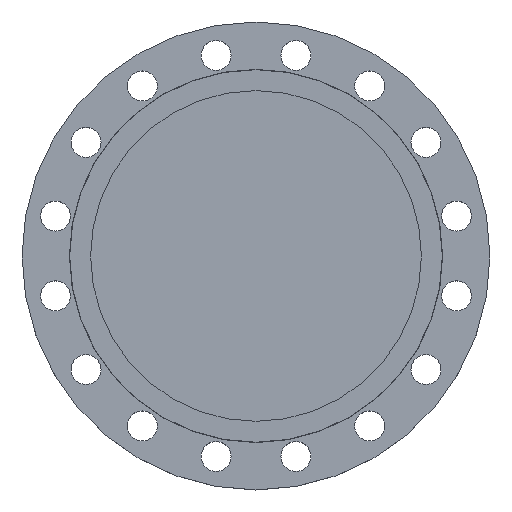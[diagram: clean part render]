
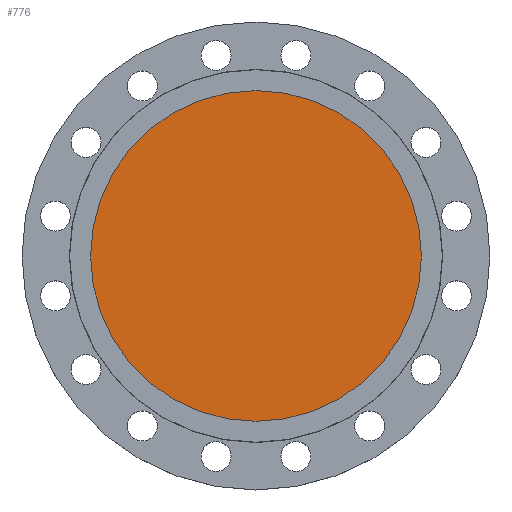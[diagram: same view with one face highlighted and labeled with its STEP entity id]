
A CAD part, top view. The second image highlights one B-rep face of the part: STEP entity #776.
In plain terms, the highlighted planar face has unit normal (0, 0, 1).
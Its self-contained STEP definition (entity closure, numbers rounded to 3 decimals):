
#153 = DIRECTION ( 'NONE',  ( -1., 0., 0. ) ) ;
#155 = DIRECTION ( 'NONE',  ( 0., 0., -1. ) ) ;
#162 = CARTESIAN_POINT ( 'NONE',  ( 0., 0., -4.5 ) ) ;
#166 = AXIS2_PLACEMENT_3D ( 'NONE', #162, #155, #153 ) ;
#452 = AXIS2_PLACEMENT_3D ( 'NONE', #1578, #1577, #1571 ) ;
#460 = EDGE_CURVE ( 'NONE', #789, #830, #977, .T. ) ;
#608 = ORIENTED_EDGE ( 'NONE', *, *, #460, .F. ) ;
#776 = ADVANCED_FACE ( 'NONE', ( #1584 ), #1579, .T. ) ;
#789 = VERTEX_POINT ( 'NONE', #1553 ) ;
#794 = DIRECTION ( 'NONE',  ( -1., 0., 0. ) ) ;
#796 = DIRECTION ( 'NONE',  ( 0., 0., -1. ) ) ;
#801 = CARTESIAN_POINT ( 'NONE',  ( 0., 0., -4.5 ) ) ;
#830 = VERTEX_POINT ( 'NONE', #1512 ) ;
#955 = ORIENTED_EDGE ( 'NONE', *, *, #1283, .F. ) ;
#977 = CIRCLE ( 'NONE', #166, 182. ) ;
#998 = AXIS2_PLACEMENT_3D ( 'NONE', #801, #796, #794 ) ;
#1146 = EDGE_LOOP ( 'NONE', ( #955, #608 ) ) ;
#1283 = EDGE_CURVE ( 'NONE', #830, #789, #1587, .T. ) ;
#1512 = CARTESIAN_POINT ( 'NONE',  ( -182., 0., -4.5 ) ) ;
#1553 = CARTESIAN_POINT ( 'NONE',  ( 182., 0., -4.5 ) ) ;
#1571 = DIRECTION ( 'NONE',  ( 1., 0., 0. ) ) ;
#1577 = DIRECTION ( 'NONE',  ( 0., 0., 1. ) ) ;
#1578 = CARTESIAN_POINT ( 'NONE',  ( 182., 0., -4.5 ) ) ;
#1579 = PLANE ( 'NONE',  #452 ) ;
#1584 = FACE_OUTER_BOUND ( 'NONE', #1146, .T. ) ;
#1587 = CIRCLE ( 'NONE', #998, 182. ) ;
